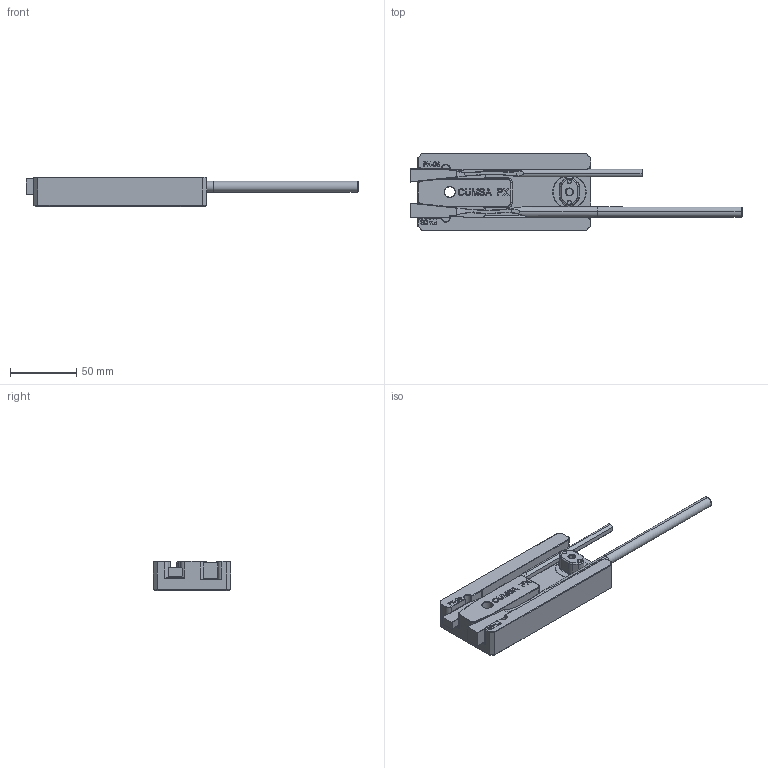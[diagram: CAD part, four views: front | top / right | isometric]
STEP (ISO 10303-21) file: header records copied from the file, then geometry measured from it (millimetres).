
FILE_DESCRIPTION (( 'STEP AP214' ), '1' );
FILE_NAME ('20-Util_corte_PX.STEP', '2013-09-16T10:10:19', ( '' ), ( '' ), 'SwSTEP 2.0', 'SolidWorks 2011', '' );
FILE_SCHEMA (( 'AUTOMOTIVE_DESIGN' ));
Length unit declared in the file: millimetre
Products named in the file (10): 20-iman; 20-8PX 0812RR-250; 11032013-9AX080109-RECTIFICADO; 11032013-8PX0812RR-TANCADA; 20-bola_corte; Circlip for Shafts normal_din_Circlip DIN 471 - 10 x 1; 11032013-PX060630 tancada MIA US_20130205; 20-leva_corte; 20-base_corte; 20-Util_corte_PX
Assembly tree (11 placements, depth 3):
  20-Util_corte_PX
    20-bola_corte  x3
    20-iman
    20-8PX 0812RR-250
      11032013-9AX080109-RECTIFICADO
      11032013-8PX0812RR-TANCADA
    20-leva_corte
    11032013-PX060630 tancada MIA US_20130205
    20-base_corte
    Circlip for Shafts normal_din_Circlip DIN 471 - 10 x 1
Bounding box: 250 x 58 x 22 mm (x, y, z)
Volume: 146699.8 mm3; surface area: 42278.4 mm2
Topology: 10 solids, 10 shells, 620 faces, 1551 edges, 980 vertices
Faces by surface type: plane 266, cylinder 137, bspline 117, cone 56, torus 38, sphere 6
Entity records: 25805 total; most frequent: CARTESIAN_POINT 11379, ORIENTED_EDGE 3056, DIRECTION 2608, EDGE_CURVE 1528, VERTEX_POINT 967, AXIS2_PLACEMENT_3D 874, VECTOR 860, LINE 860
